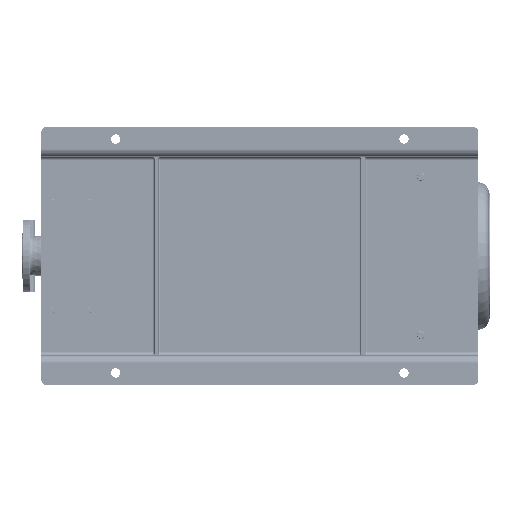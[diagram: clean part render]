
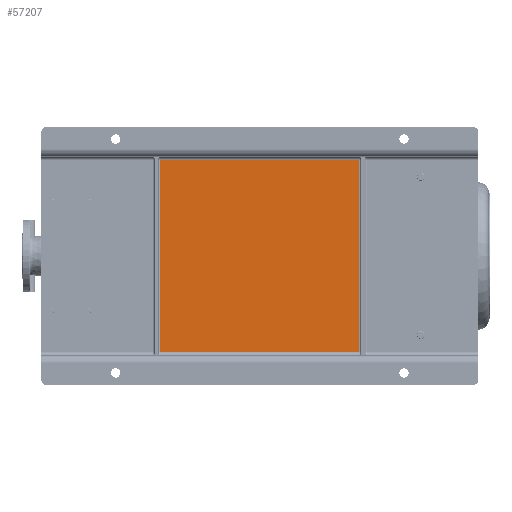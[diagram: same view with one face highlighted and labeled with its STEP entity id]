
A CAD part, front view. The second image highlights one B-rep face of the part: STEP entity #57207.
In plain terms, the highlighted planar face has unit normal (0, -1, 0).
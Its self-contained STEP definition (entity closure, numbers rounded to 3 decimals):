
#10749 = DIRECTION ( 'NONE',  ( -1., 0., 0. ) ) ;
#11989 = VECTOR ( 'NONE', #143941, 1000. ) ;
#16465 = EDGE_LOOP ( 'NONE', ( #108702, #146535, #34507, #155331 ) ) ;
#34507 = ORIENTED_EDGE ( 'NONE', *, *, #123288, .T. ) ;
#39148 = LINE ( 'NONE', #101333, #136189 ) ;
#47510 = AXIS2_PLACEMENT_3D ( 'NONE', #62188, #201682, #49822 ) ;
#49822 = DIRECTION ( 'NONE',  ( 0., 0., -1. ) ) ;
#52534 = DIRECTION ( 'NONE',  ( 0., 0., -1. ) ) ;
#57207 = ADVANCED_FACE ( 'NONE', ( #158859 ), #126247, .T. ) ;
#58701 = CARTESIAN_POINT ( 'NONE',  ( 75., 65., -305. ) ) ;
#62188 = CARTESIAN_POINT ( 'NONE',  ( 75., 65., -1120. ) ) ;
#75021 = LINE ( 'NONE', #58701, #186056 ) ;
#78518 = EDGE_CURVE ( 'NONE', #200185, #148402, #129654, .T. ) ;
#84684 = EDGE_CURVE ( 'NONE', #112313, #120418, #75021, .T. ) ;
#98107 = CARTESIAN_POINT ( 'NONE',  ( 75., 65., -815. ) ) ;
#100151 = CARTESIAN_POINT ( 'NONE',  ( 575., 65., -305. ) ) ;
#101333 = CARTESIAN_POINT ( 'NONE',  ( 575., 65., -300. ) ) ;
#108702 = ORIENTED_EDGE ( 'NONE', *, *, #161502, .T. ) ;
#112313 = VERTEX_POINT ( 'NONE', #100151 ) ;
#120418 = VERTEX_POINT ( 'NONE', #131064 ) ;
#123288 = EDGE_CURVE ( 'NONE', #148402, #112313, #39148, .T. ) ;
#126247 = PLANE ( 'NONE',  #47510 ) ;
#129654 = LINE ( 'NONE', #98107, #11989 ) ;
#131064 = CARTESIAN_POINT ( 'NONE',  ( 85., 65., -305. ) ) ;
#136189 = VECTOR ( 'NONE', #150212, 1000. ) ;
#143941 = DIRECTION ( 'NONE',  ( 1., 0., 0. ) ) ;
#145253 = CARTESIAN_POINT ( 'NONE',  ( 85., 65., -820. ) ) ;
#146535 = ORIENTED_EDGE ( 'NONE', *, *, #78518, .T. ) ;
#148402 = VERTEX_POINT ( 'NONE', #188659 ) ;
#150212 = DIRECTION ( 'NONE',  ( 0., 0., 1. ) ) ;
#155331 = ORIENTED_EDGE ( 'NONE', *, *, #84684, .T. ) ;
#158859 = FACE_OUTER_BOUND ( 'NONE', #16465, .T. ) ;
#161502 = EDGE_CURVE ( 'NONE', #120418, #200185, #175825, .T. ) ;
#175825 = LINE ( 'NONE', #145253, #184095 ) ;
#184095 = VECTOR ( 'NONE', #52534, 1000. ) ;
#186056 = VECTOR ( 'NONE', #10749, 1000. ) ;
#188659 = CARTESIAN_POINT ( 'NONE',  ( 575., 65., -815. ) ) ;
#200185 = VERTEX_POINT ( 'NONE', #201019 ) ;
#201019 = CARTESIAN_POINT ( 'NONE',  ( 85., 65., -815. ) ) ;
#201682 = DIRECTION ( 'NONE',  ( 0., -1., 0. ) ) ;
